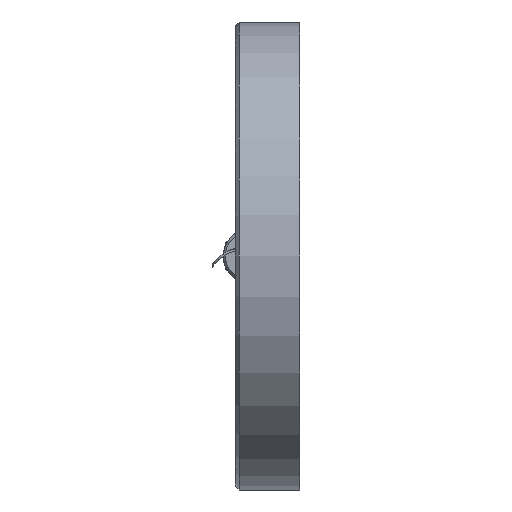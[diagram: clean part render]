
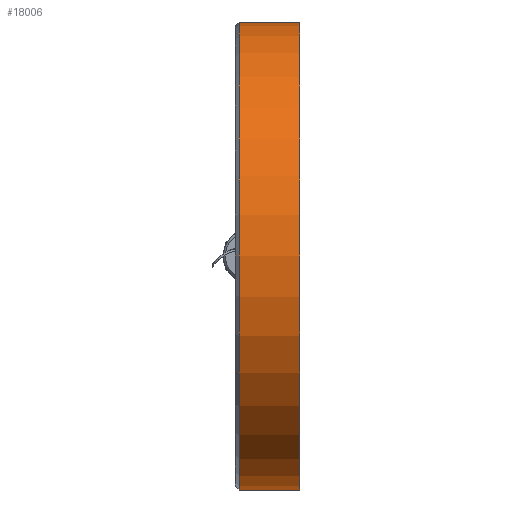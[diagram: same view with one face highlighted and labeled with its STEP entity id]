
A CAD part, left-side view. The second image highlights one B-rep face of the part: STEP entity #18006.
In plain terms, the highlighted cylindrical face has radius 61.5 mm (diameter 123 mm), a partial arc.
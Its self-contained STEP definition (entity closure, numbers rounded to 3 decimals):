
#1694 = CARTESIAN_POINT ( 'NONE',  ( 0., 21.805, 61.5 ) ) ;
#1695 = LINE ( 'NONE', #1694, #1773 ) ;
#1704 = DIRECTION ( 'NONE',  ( 0., 1., 0. ) ) ;
#1773 = VECTOR ( 'NONE', #1704, 1000. ) ;
#3959 = CARTESIAN_POINT ( 'NONE',  ( 0., 0., 61.5 ) ) ;
#4719 = DIRECTION ( 'NONE',  ( 0., 1., 0. ) ) ;
#4748 = CARTESIAN_POINT ( 'NONE',  ( 0., 21.805, 0. ) ) ;
#4750 = AXIS2_PLACEMENT_3D ( 'NONE', #4748, #4719, #4815 ) ;
#4756 = CYLINDRICAL_SURFACE ( 'NONE', #4750, 61.5 ) ;
#4758 = FACE_OUTER_BOUND ( 'NONE', #18055, .T. ) ;
#4815 = DIRECTION ( 'NONE',  ( 0., 0., 1. ) ) ;
#5745 = CARTESIAN_POINT ( 'NONE',  ( 0., 16., -61.5 ) ) ;
#6493 = DIRECTION ( 'NONE',  ( 0., 1., 0. ) ) ;
#6518 = DIRECTION ( 'NONE',  ( 0., 0., 1. ) ) ;
#6521 = CARTESIAN_POINT ( 'NONE',  ( 0., 0., 0. ) ) ;
#6638 = CIRCLE ( 'NONE', #6647, 61.5 ) ;
#6647 = AXIS2_PLACEMENT_3D ( 'NONE', #6521, #6493, #6518 ) ;
#9350 = CIRCLE ( 'NONE', #9384, 61.5 ) ;
#9372 = DIRECTION ( 'NONE',  ( 0., 0., 1. ) ) ;
#9373 = DIRECTION ( 'NONE',  ( 0., 1., 0. ) ) ;
#9374 = CARTESIAN_POINT ( 'NONE',  ( 0., 16., 0. ) ) ;
#9384 = AXIS2_PLACEMENT_3D ( 'NONE', #9374, #9373, #9372 ) ;
#9663 = CARTESIAN_POINT ( 'NONE',  ( 0., 16., 61.5 ) ) ;
#12092 = CARTESIAN_POINT ( 'NONE',  ( 0., 21.805, -61.5 ) ) ;
#12093 = LINE ( 'NONE', #12092, #12102 ) ;
#12101 = DIRECTION ( 'NONE',  ( 0., 1., 0. ) ) ;
#12102 = VECTOR ( 'NONE', #12101, 1000. ) ;
#12375 = CARTESIAN_POINT ( 'NONE',  ( 0., 0., -61.5 ) ) ;
#17019 = EDGE_CURVE ( 'NONE', #17816, #19967, #1695, .T. ) ;
#17712 = EDGE_CURVE ( 'NONE', #17749, #20008, #12093, .T. ) ;
#17749 = VERTEX_POINT ( 'NONE', #12375 ) ;
#17816 = VERTEX_POINT ( 'NONE', #3959 ) ;
#18006 = ADVANCED_FACE ( 'NONE', ( #4758 ), #4756, .T. ) ;
#18055 = EDGE_LOOP ( 'NONE', ( #18205, #18202, #18761, #18762 ) ) ;
#18202 = ORIENTED_EDGE ( 'NONE', *, *, #18745, .T. ) ;
#18205 = ORIENTED_EDGE ( 'NONE', *, *, #17712, .F. ) ;
#18534 = EDGE_CURVE ( 'NONE', #20008, #19967, #9350, .T. ) ;
#18745 = EDGE_CURVE ( 'NONE', #17749, #17816, #6638, .T. ) ;
#18761 = ORIENTED_EDGE ( 'NONE', *, *, #17019, .T. ) ;
#18762 = ORIENTED_EDGE ( 'NONE', *, *, #18534, .F. ) ;
#19967 = VERTEX_POINT ( 'NONE', #9663 ) ;
#20008 = VERTEX_POINT ( 'NONE', #5745 ) ;
